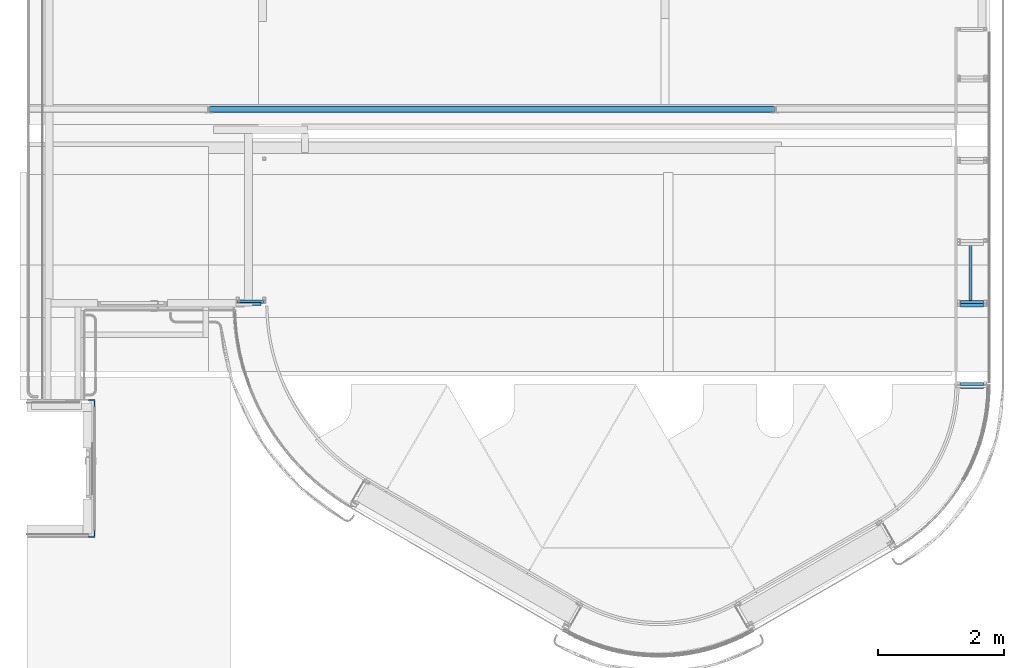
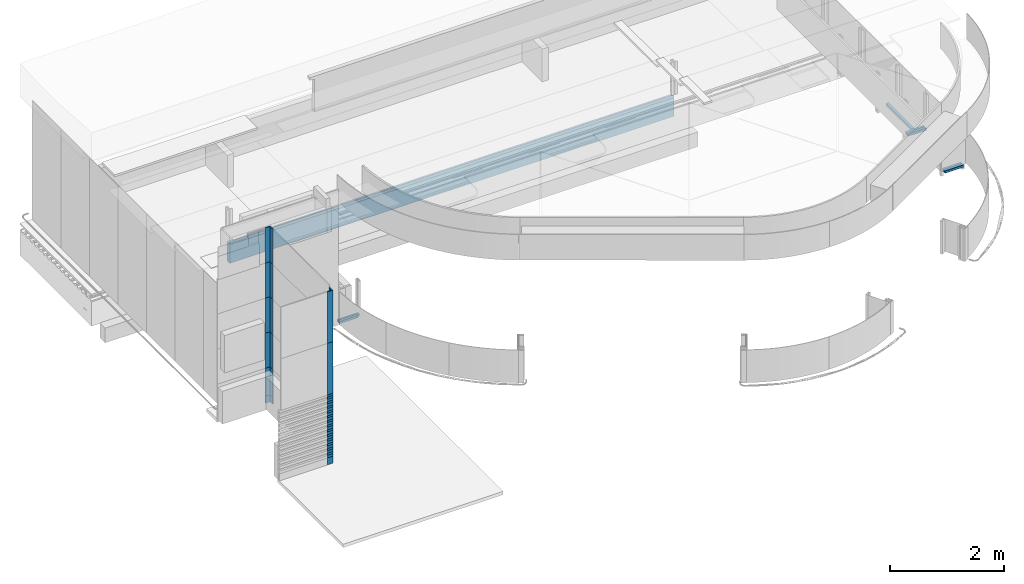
# One storey, part 7 of 18: 36 members, 9 beams, 2 elements without a shape of their own.
"""IFC2X3 building model written with IfcOpenShell, lengths in millimetres."""

from ifc_helpers import new_model, entity, si_unit, converted_unit, derived_unit, direction, frame, frame_2d, origin, origin_with_axes, origin_2d_with_axis, place, context, subcontext, project, spatial, polyline, circle_curve, parameter, trimmed, segment, composite_curve, rectangle, outline, extrude, boolean, source, transform, mapped, material, material_list, type_object, element, aggregate, save


model = new_model("IFC2X3")

# Units and contexts
model_context = context("Model", 3, precision=0.01, world=frame((0.0, 4.29681676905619e-09, 0.0)), true_north=direction((4.01073788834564e-13, 1.0)))
plan_context = context("Plan", 3, precision=0.01, world=frame((0.0, 4.29681676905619e-09, 0.0)), true_north=direction((4.01073788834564e-13, 1.0)))
body_context = subcontext(model_context, "Body", "Model", "MODEL_VIEW")
ifc_project = project(units=[converted_unit("PLANEANGLEUNIT", "DEGREE", entity("IfcPositiveLengthMeasure", 0.0174532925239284), si_unit("PLANEANGLEUNIT", "RADIAN"), dimensions=[0, 0, 0, 0, 0, 0, 0]), si_unit("AREAUNIT", "SQUARE_METRE"), si_unit("LENGTHUNIT", "METRE", prefix="MILLI"), si_unit("MASSUNIT", "GRAM", prefix="KILO"), si_unit("POWERUNIT", "WATT"), si_unit("PRESSUREUNIT", "PASCAL"), si_unit("FORCEUNIT", "NEWTON", prefix="KILO"), si_unit("ELECTRICVOLTAGEUNIT", "VOLT"), si_unit("ELECTRICCURRENTUNIT", "AMPERE"), si_unit("THERMODYNAMICTEMPERATUREUNIT", "DEGREE_CELSIUS"), si_unit("TIMEUNIT", "SECOND"), si_unit("VOLUMEUNIT", "CUBIC_METRE"), derived_unit("LINEARVELOCITYUNIT", [(si_unit("LENGTHUNIT", "METRE"), 1), (si_unit("TIMEUNIT", "SECOND"), -1)]), derived_unit("VOLUMETRICFLOWRATEUNIT", [(si_unit("VOLUMEUNIT", "CUBIC_METRE"), 1), (si_unit("TIMEUNIT", "SECOND"), -1)]), derived_unit("THERMALTRANSMITTANCEUNIT", [(si_unit("POWERUNIT", "WATT"), 1), (si_unit("THERMODYNAMICTEMPERATUREUNIT", "KELVIN"), -1), (si_unit("AREAUNIT", "SQUARE_METRE"), -1)]), derived_unit("SOUNDPRESSUREUNIT", [(si_unit("PRESSUREUNIT", "PASCAL"), 1)])], contexts=[model_context, plan_context])

# Site, building, storey
site_placement = place(None, origin_with_axes())
site = spatial("IfcSite", under=ifc_project, at=site_placement, Name="ENGM", CompositionType="ELEMENT")
building_placement = place(site_placement, origin_with_axes())
building = spatial("IfcBuilding", under=site, at=building_placement, Name="TH", CompositionType="ELEMENT")
storey_placement = place(building_placement, frame((0.0, 0.0, 210200.0), z_axis=(0.0, 0.0, 1.0), x_axis=(1.0, 0.0, 0.0)))
storey = spatial("IfcBuildingStorey", under=building, at=storey_placement, Name="Nivå F - 0,7 m", CompositionType="ELEMENT", Elevation=210200.0)

# Beam
ifc_material_1 = material(Name="<Unnamed>")
ifc_material_2 = material(Name="_NSW Stål")
ifc_material_list = material_list([ifc_material_1, ifc_material_2])
beam_type_1 = type_object("IfcBeamType", Name="B223 - Bjelke - eks. pir fasade:B223 - 400x100x8", PredefinedType="BEAM", material=ifc_material_list)
shared_shape_1 = source(origin(), body_context, "Body", "SweptSolid", [
    extrude(outline(composite_curve([segment(polyline([(-58.0, -192.0), (24.0, -192.0)]), True, "CONTINUOUS"), segment(trimmed(circle_curve(frame_2d((24.0, -182.0), x_axis=(1.0, 0.0)), 10.0), [parameter(270.0)], [parameter(0.0)], True, "PARAMETER"), True, "CONTINUOUS"), segment(polyline([(34.0, -182.0), (34.0, 182.0)]), True, "CONTINUOUS"), segment(trimmed(circle_curve(frame_2d((24.0, 182.0), x_axis=(1.0, 0.0)), 10.0), [parameter(2.03555499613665e-13)], [parameter(90.0000000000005)], True, "PARAMETER"), True, "CONTINUOUS"), segment(polyline([(24.0, 192.0), (-58.0, 192.0)]), True, "CONTINUOUS"), segment(polyline([(-58.0, 192.0), (-58.0, -192.0)]), True, "CONTINUOUS")], self_intersect=False)), frame((-4490.0, 8.0, 0.0), z_axis=(1.0, 0.0, 0.0), x_axis=(0.0, 1.0, 0.0)), (0.0, 0.0, 1.0), 8.00000000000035),
    extrude(outline(composite_curve([segment(polyline([(-58.0, -192.0), (24.0, -192.0)]), True, "CONTINUOUS"), segment(trimmed(circle_curve(frame_2d((24.0, -182.0), x_axis=(-1.0, 0.0)), 9.99999999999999), [parameter(90.0000000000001)], [parameter(180.0)], True, "PARAMETER"), True, "CONTINUOUS"), segment(polyline([(34.0, -182.0), (34.0, 182.0)]), True, "CONTINUOUS"), segment(trimmed(circle_curve(frame_2d((24.0, 182.0), x_axis=(-1.0, 0.0)), 9.99999999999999), [parameter(180.0)], [parameter(270.0)], True, "PARAMETER"), True, "CONTINUOUS"), segment(polyline([(24.0, 192.0), (-58.0, 192.0)]), True, "CONTINUOUS"), segment(polyline([(-58.0, 192.0), (-58.0, -192.0)]), True, "CONTINUOUS")], self_intersect=False)), frame((4482.0, 8.0, 0.0), z_axis=(1.0, 0.0, 0.0), x_axis=(0.0, 1.0, 0.0)), (0.0, 0.0, 1.0), 7.9999999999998),
    extrude(outline(composite_curve([segment(polyline([(-200.0, -45.2), (200.0, -45.2)]), True, "CONTINUOUS"), segment(polyline([(200.0, -45.2), (200.0, 54.8)]), True, "CONTINUOUS"), segment(polyline([(200.0, 54.8), (192.0, 54.8)]), True, "CONTINUOUS"), segment(polyline([(192.0, 54.8), (192.0, -27.2000000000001)]), True, "CONTINUOUS"), segment(trimmed(circle_curve(frame_2d((182.0, -27.2), x_axis=(0.0, 1.0)), 10.0), [parameter(180.0)], [parameter(270.0)], True, "PARAMETER"), False, "CONTINUOUS"), segment(polyline([(182.0, -37.2), (-182.0, -37.2)]), True, "CONTINUOUS"), segment(trimmed(circle_curve(frame_2d((-182.0, -27.2), x_axis=(0.0, 1.0)), 10.0), [parameter(90.0)], [parameter(180.0)], True, "PARAMETER"), False, "CONTINUOUS"), segment(polyline([(-192.0, -27.2), (-192.0, 54.8)]), True, "CONTINUOUS"), segment(polyline([(-192.0, 54.8), (-200.0, 54.8)]), True, "CONTINUOUS"), segment(polyline([(-200.0, 54.8), (-200.0, -45.2)]), True, "CONTINUOUS")], self_intersect=False)), frame((-4490.0, 4.79999999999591, 0.0), z_axis=(1.0, 0.0, 0.0), x_axis=(0.0, 0.0, 1.0)), (0.0, 0.0, 1.0), 8979.9999999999),
])
beam_1_placement = place(storey_placement, frame((902499.999999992, 485076.76249997, -260.0), z_axis=(0.0, 0.0, 1.0), x_axis=(-1.0, 0.0, 0.0)))
element("IfcBeam", 1, at=beam_1_placement, inside=storey, type_object=beam_type_1, material=ifc_material_list, Name="B223 - Bjelke - eks. pir fasade:B223 - 400x100x8", ObjectType="B223 - Bjelke - eks. pir fasade:B223 - 400x100x8", context=body_context, shape_type="MappedRepresentation", body=[
    mapped(shared_shape_1, transform((0.0, 0.0, 0.0), scale=1.0)),
])

# Curtain wall, members
curtain_wall_type = type_object("IfcCurtainWallType", PredefinedType="NOTDEFINED")
curtain_wall_1_placement = place(storey_placement, frame((0.0, 0.0, -210200.0), z_axis=(0.0, 0.0, 1.0), x_axis=(1.0, 0.0, 0.0)))
curtain_wall_1 = element("IfcCurtainWall", 2, at=curtain_wall_1_placement, inside=storey, type_object=curtain_wall_type)
ifc_material_3 = material(Name="Metal - Steel")
member_type_1 = type_object("IfcMemberType", Name="L Corner Mullion:A233 - Sprosse - 20 x 100 mm", PredefinedType="MULLION", material=ifc_material_3)
shared_shape_2 = source(origin(), body_context, "Body", "SweptSolid", [
    extrude(outline(polyline([(-43.3333333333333, -66.6666666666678), (-23.3333333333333, -66.6666666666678), (-23.3333333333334, 23.3333333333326), (66.666666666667, 23.3333333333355), (66.6666666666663, 43.3333333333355), (-43.3333333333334, 43.3333333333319), (-43.3333333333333, -66.6666666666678)])), frame((6.66666666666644, -6.66666666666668, -1105.0), z_axis=(0.0, 0.0, 1.0), x_axis=(-1.0, 0.0, 0.0)), (0.0, 0.0, 1.0), 1104.99999999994),
])
member_1_placement = place(curtain_wall_1_placement, frame((896145.000000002, 478322.727283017, 212800.0), z_axis=(0.0, 0.0, 1.0), x_axis=(1.0, 0.0, 0.0)))
member_1 = element("IfcMember", 3, at=member_1_placement, type_object=member_type_1, material=ifc_material_3, Name="L Corner Mullion:A233 - Sprosse - 20 x 100 mm", ObjectType="L Corner Mullion:A233 - Sprosse - 20 x 100 mm", context=body_context, shape_type="MappedRepresentation", body=[
    mapped(shared_shape_2, transform((0.0, 0.0, 0.0), scale=1.0)),
])
member_type_2 = type_object("IfcMemberType", Name="L Corner Mullion:A233 - Sprosse - 20 x 100 mm", PredefinedType="MULLION", material=ifc_material_3)
shared_shape_3 = source(origin(), body_context, "Body", "SweptSolid", [
    extrude(outline(polyline([(-43.3333333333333, -66.6666666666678), (-23.3333333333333, -66.6666666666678), (-23.3333333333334, 23.3333333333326), (66.666666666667, 23.3333333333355), (66.6666666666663, 43.3333333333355), (-43.3333333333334, 43.3333333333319), (-43.3333333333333, -66.6666666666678)])), frame((6.66666666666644, -6.66666666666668, -45.0), z_axis=(0.0, 0.0, 1.0), x_axis=(-1.0, 0.0, 0.0)), (0.0, 0.0, 1.0), 45.0000000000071),
])
member_2_placement = place(curtain_wall_1_placement, frame((896145.000000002, 478322.727283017, 211695.0), z_axis=(0.0, 0.0, 1.0), x_axis=(1.0, 0.0, 0.0)))
member_2 = element("IfcMember", 4, at=member_2_placement, type_object=member_type_2, material=ifc_material_3, Name="L Corner Mullion:A233 - Sprosse - 20 x 100 mm", ObjectType="L Corner Mullion:A233 - Sprosse - 20 x 100 mm", context=body_context, shape_type="MappedRepresentation", body=[
    mapped(shared_shape_3, transform((0.0, 0.0, 0.0), scale=1.0)),
])
member_3_placement = place(curtain_wall_1_placement, frame((896145.000000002, 478322.727283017, 210450.0), z_axis=(0.0, 0.0, 1.0), x_axis=(1.0, 0.0, 0.0)))
member_3 = element("IfcMember", 5, at=member_3_placement, type_object=member_type_2, material=ifc_material_3, Name="L Corner Mullion:A233 - Sprosse - 20 x 100 mm", ObjectType="L Corner Mullion:A233 - Sprosse - 20 x 100 mm", context=body_context, shape_type="MappedRepresentation", body=[
    mapped(shared_shape_3, transform((0.0, 0.0, 0.0), scale=1.0)),
])
member_4_placement = place(curtain_wall_1_placement, frame((896145.000000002, 478322.727283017, 210550.0), z_axis=(0.0, 0.0, 1.0), x_axis=(1.0, 0.0, 0.0)))
member_4 = element("IfcMember", 6, at=member_4_placement, type_object=member_type_2, material=ifc_material_3, Name="L Corner Mullion:A233 - Sprosse - 20 x 100 mm", ObjectType="L Corner Mullion:A233 - Sprosse - 20 x 100 mm", context=body_context, shape_type="MappedRepresentation", body=[
    mapped(shared_shape_3, transform((0.0, 0.0, 0.0), scale=1.0)),
])
member_5_placement = place(curtain_wall_1_placement, frame((896145.000000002, 478322.727283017, 210650.0), z_axis=(0.0, 0.0, 1.0), x_axis=(1.0, 0.0, 0.0)))
member_5 = element("IfcMember", 7, at=member_5_placement, type_object=member_type_2, material=ifc_material_3, Name="L Corner Mullion:A233 - Sprosse - 20 x 100 mm", ObjectType="L Corner Mullion:A233 - Sprosse - 20 x 100 mm", context=body_context, shape_type="MappedRepresentation", body=[
    mapped(shared_shape_3, transform((0.0, 0.0, 0.0), scale=1.0)),
])
member_6_placement = place(curtain_wall_1_placement, frame((896145.000000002, 478322.727283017, 210850.0), z_axis=(0.0, 0.0, 1.0), x_axis=(1.0, 0.0, 0.0)))
member_6 = element("IfcMember", 8, at=member_6_placement, type_object=member_type_2, material=ifc_material_3, Name="L Corner Mullion:A233 - Sprosse - 20 x 100 mm", ObjectType="L Corner Mullion:A233 - Sprosse - 20 x 100 mm", context=body_context, shape_type="MappedRepresentation", body=[
    mapped(shared_shape_3, transform((0.0, 0.0, 0.0), scale=1.0)),
])
member_7_placement = place(curtain_wall_1_placement, frame((896145.000000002, 478322.727283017, 210950.0), z_axis=(0.0, 0.0, 1.0), x_axis=(1.0, 0.0, 0.0)))
member_7 = element("IfcMember", 9, at=member_7_placement, type_object=member_type_2, material=ifc_material_3, Name="L Corner Mullion:A233 - Sprosse - 20 x 100 mm", ObjectType="L Corner Mullion:A233 - Sprosse - 20 x 100 mm", context=body_context, shape_type="MappedRepresentation", body=[
    mapped(shared_shape_3, transform((0.0, 0.0, 0.0), scale=1.0)),
])
member_8_placement = place(curtain_wall_1_placement, frame((896145.000000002, 478322.727283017, 210750.0), z_axis=(0.0, 0.0, 1.0), x_axis=(1.0, 0.0, 0.0)))
member_8 = element("IfcMember", 10, at=member_8_placement, type_object=member_type_2, material=ifc_material_3, Name="L Corner Mullion:A233 - Sprosse - 20 x 100 mm", ObjectType="L Corner Mullion:A233 - Sprosse - 20 x 100 mm", context=body_context, shape_type="MappedRepresentation", body=[
    mapped(shared_shape_3, transform((0.0, 0.0, 0.0), scale=1.0)),
])
member_9_placement = place(curtain_wall_1_placement, frame((896145.000000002, 478322.727283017, 211050.0), z_axis=(0.0, 0.0, 1.0), x_axis=(1.0, 0.0, 0.0)))
member_9 = element("IfcMember", 11, at=member_9_placement, type_object=member_type_2, material=ifc_material_3, Name="L Corner Mullion:A233 - Sprosse - 20 x 100 mm", ObjectType="L Corner Mullion:A233 - Sprosse - 20 x 100 mm", context=body_context, shape_type="MappedRepresentation", body=[
    mapped(shared_shape_3, transform((0.0, 0.0, 0.0), scale=1.0)),
])
member_10_placement = place(curtain_wall_1_placement, frame((896145.000000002, 478322.727283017, 211150.0), z_axis=(0.0, 0.0, 1.0), x_axis=(1.0, 0.0, 0.0)))
member_10 = element("IfcMember", 12, at=member_10_placement, type_object=member_type_2, material=ifc_material_3, Name="L Corner Mullion:A233 - Sprosse - 20 x 100 mm", ObjectType="L Corner Mullion:A233 - Sprosse - 20 x 100 mm", context=body_context, shape_type="MappedRepresentation", body=[
    mapped(shared_shape_3, transform((0.0, 0.0, 0.0), scale=1.0)),
])
member_11_placement = place(curtain_wall_1_placement, frame((896145.000000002, 478322.727283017, 211250.0), z_axis=(0.0, 0.0, 1.0), x_axis=(1.0, 0.0, 0.0)))
member_11 = element("IfcMember", 13, at=member_11_placement, type_object=member_type_2, material=ifc_material_3, Name="L Corner Mullion:A233 - Sprosse - 20 x 100 mm", ObjectType="L Corner Mullion:A233 - Sprosse - 20 x 100 mm", context=body_context, shape_type="MappedRepresentation", body=[
    mapped(shared_shape_3, transform((0.0, 0.0, 0.0), scale=1.0)),
])
member_12_placement = place(curtain_wall_1_placement, frame((896145.000000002, 478322.727283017, 211350.0), z_axis=(0.0, 0.0, 1.0), x_axis=(1.0, 0.0, 0.0)))
member_12 = element("IfcMember", 14, at=member_12_placement, type_object=member_type_2, material=ifc_material_3, Name="L Corner Mullion:A233 - Sprosse - 20 x 100 mm", ObjectType="L Corner Mullion:A233 - Sprosse - 20 x 100 mm", context=body_context, shape_type="MappedRepresentation", body=[
    mapped(shared_shape_3, transform((0.0, 0.0, 0.0), scale=1.0)),
])
member_13_placement = place(curtain_wall_1_placement, frame((896145.000000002, 478322.727283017, 211450.0), z_axis=(0.0, 0.0, 1.0), x_axis=(1.0, 0.0, 0.0)))
member_13 = element("IfcMember", 15, at=member_13_placement, type_object=member_type_2, material=ifc_material_3, Name="L Corner Mullion:A233 - Sprosse - 20 x 100 mm", ObjectType="L Corner Mullion:A233 - Sprosse - 20 x 100 mm", context=body_context, shape_type="MappedRepresentation", body=[
    mapped(shared_shape_3, transform((0.0, 0.0, 0.0), scale=1.0)),
])
member_14_placement = place(curtain_wall_1_placement, frame((896145.000000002, 478322.727283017, 211550.0), z_axis=(0.0, 0.0, 1.0), x_axis=(1.0, 0.0, 0.0)))
member_14 = element("IfcMember", 16, at=member_14_placement, type_object=member_type_2, material=ifc_material_3, Name="L Corner Mullion:A233 - Sprosse - 20 x 100 mm", ObjectType="L Corner Mullion:A233 - Sprosse - 20 x 100 mm", context=body_context, shape_type="MappedRepresentation", body=[
    mapped(shared_shape_3, transform((0.0, 0.0, 0.0), scale=1.0)),
])
member_15_placement = place(curtain_wall_1_placement, frame((896145.000000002, 478322.727283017, 211650.0), z_axis=(0.0, 0.0, 1.0), x_axis=(1.0, 0.0, 0.0)))
member_15 = element("IfcMember", 17, at=member_15_placement, type_object=member_type_2, material=ifc_material_3, Name="L Corner Mullion:A233 - Sprosse - 20 x 100 mm", ObjectType="L Corner Mullion:A233 - Sprosse - 20 x 100 mm", context=body_context, shape_type="MappedRepresentation", body=[
    mapped(shared_shape_3, transform((0.0, 0.0, 0.0), scale=1.0)),
])
member_type_3 = type_object("IfcMemberType", Name="L Corner Mullion:A233 - Sprosse - 20 x 100 mm", PredefinedType="MULLION", material=ifc_material_3)
shared_shape_4 = source(origin(), body_context, "Body", "SweptSolid", [
    extrude(outline(polyline([(-43.3333333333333, -66.6666666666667), (-23.3333333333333, -66.6666666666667), (-23.3333333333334, 23.3333333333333), (66.6666666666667, 23.3333333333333), (66.6666666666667, 43.3333333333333), (-43.3333333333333, 43.3333333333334), (-43.3333333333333, -66.6666666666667)])), frame((6.66666666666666, -6.66666666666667, -150.0), z_axis=(0.0, 0.0, 1.0), x_axis=(-1.0, 0.0, 0.0)), (0.0, 0.0, 1.0), 150.000000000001),
])
member_16_placement = place(curtain_wall_1_placement, frame((896145.000000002, 478322.727283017, 210350.0), z_axis=(0.0, 0.0, 1.0), x_axis=(1.0, 0.0, 0.0)))
member_16 = element("IfcMember", 18, at=member_16_placement, type_object=member_type_3, material=ifc_material_3, Name="L Corner Mullion:A233 - Sprosse - 20 x 100 mm", ObjectType="L Corner Mullion:A233 - Sprosse - 20 x 100 mm", context=body_context, shape_type="MappedRepresentation", body=[
    mapped(shared_shape_4, transform((0.0, 0.0, 0.0), scale=1.0)),
])
member_type_4 = type_object("IfcMemberType", Name="L Corner Mullion:A233 - Sprosse - 20 x 100 mm", PredefinedType="MULLION", material=ifc_material_3)
shared_shape_5 = source(origin(), body_context, "Body", "SweptSolid", [
    extrude(outline(polyline([(-43.3333333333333, -66.6666666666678), (-23.3333333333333, -66.6666666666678), (-23.3333333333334, 23.3333333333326), (66.666666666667, 23.3333333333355), (66.6666666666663, 43.3333333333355), (-43.3333333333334, 43.3333333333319), (-43.3333333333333, -66.6666666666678)])), frame((6.66666666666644, -6.66666666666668, -1100.0), z_axis=(0.0, 0.0, 1.0), x_axis=(-1.0, 0.0, 0.0)), (0.0, 0.0, 1.0), 1099.99999999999),
])
member_17_placement = place(curtain_wall_1_placement, frame((896145.000000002, 478322.727283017, 213900.0), z_axis=(0.0, 0.0, 1.0), x_axis=(1.0, 0.0, 0.0)))
member_17 = element("IfcMember", 19, at=member_17_placement, type_object=member_type_4, material=ifc_material_3, Name="L Corner Mullion:A233 - Sprosse - 20 x 100 mm", ObjectType="L Corner Mullion:A233 - Sprosse - 20 x 100 mm", context=body_context, shape_type="MappedRepresentation", body=[
    mapped(shared_shape_5, transform((0.0, 0.0, 0.0), scale=1.0)),
])
member_type_5 = type_object("IfcMemberType", Name="L Corner Mullion:A233 - Sprosse - 20 x 100 mm", PredefinedType="MULLION", material=ifc_material_3)
shared_shape_6 = source(origin(), body_context, "Body", "SweptSolid", [
    extrude(outline(polyline([(-43.3333333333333, -66.6666666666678), (-23.3333333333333, -66.6666666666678), (-23.3333333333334, 23.3333333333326), (66.666666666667, 23.3333333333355), (66.6666666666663, 43.3333333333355), (-43.3333333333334, 43.3333333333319), (-43.3333333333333, -66.6666666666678)])), frame((6.66666666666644, -6.66666666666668, -55.0), z_axis=(0.0, 0.0, 1.0), x_axis=(-1.0, 0.0, 0.0)), (0.0, 0.0, 1.0), 55.0000000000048),
])
member_18_placement = place(curtain_wall_1_placement, frame((896145.000000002, 478322.727283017, 210405.0), z_axis=(0.0, 0.0, 1.0), x_axis=(1.0, 0.0, 0.0)))
member_18 = element("IfcMember", 20, at=member_18_placement, type_object=member_type_5, material=ifc_material_3, Name="L Corner Mullion:A233 - Sprosse - 20 x 100 mm", ObjectType="L Corner Mullion:A233 - Sprosse - 20 x 100 mm", context=body_context, shape_type="MappedRepresentation", body=[
    mapped(shared_shape_6, transform((0.0, 0.0, 0.0), scale=1.0)),
])
member_19_placement = place(curtain_wall_1_placement, frame((896145.000000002, 478322.727283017, 210605.0), z_axis=(0.0, 0.0, 1.0), x_axis=(1.0, 0.0, 0.0)))
member_19 = element("IfcMember", 21, at=member_19_placement, type_object=member_type_5, material=ifc_material_3, Name="L Corner Mullion:A233 - Sprosse - 20 x 100 mm", ObjectType="L Corner Mullion:A233 - Sprosse - 20 x 100 mm", context=body_context, shape_type="MappedRepresentation", body=[
    mapped(shared_shape_6, transform((0.0, 0.0, 0.0), scale=1.0)),
])
member_20_placement = place(curtain_wall_1_placement, frame((896145.000000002, 478322.727283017, 210705.0), z_axis=(0.0, 0.0, 1.0), x_axis=(1.0, 0.0, 0.0)))
member_20 = element("IfcMember", 22, at=member_20_placement, type_object=member_type_5, material=ifc_material_3, Name="L Corner Mullion:A233 - Sprosse - 20 x 100 mm", ObjectType="L Corner Mullion:A233 - Sprosse - 20 x 100 mm", context=body_context, shape_type="MappedRepresentation", body=[
    mapped(shared_shape_6, transform((0.0, 0.0, 0.0), scale=1.0)),
])
member_21_placement = place(curtain_wall_1_placement, frame((896145.000000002, 478322.727283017, 210505.0), z_axis=(0.0, 0.0, 1.0), x_axis=(1.0, 0.0, 0.0)))
member_21 = element("IfcMember", 23, at=member_21_placement, type_object=member_type_5, material=ifc_material_3, Name="L Corner Mullion:A233 - Sprosse - 20 x 100 mm", ObjectType="L Corner Mullion:A233 - Sprosse - 20 x 100 mm", context=body_context, shape_type="MappedRepresentation", body=[
    mapped(shared_shape_6, transform((0.0, 0.0, 0.0), scale=1.0)),
])
member_22_placement = place(curtain_wall_1_placement, frame((896145.000000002, 478322.727283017, 210805.0), z_axis=(0.0, 0.0, 1.0), x_axis=(1.0, 0.0, 0.0)))
member_22 = element("IfcMember", 24, at=member_22_placement, type_object=member_type_5, material=ifc_material_3, Name="L Corner Mullion:A233 - Sprosse - 20 x 100 mm", ObjectType="L Corner Mullion:A233 - Sprosse - 20 x 100 mm", context=body_context, shape_type="MappedRepresentation", body=[
    mapped(shared_shape_6, transform((0.0, 0.0, 0.0), scale=1.0)),
])
member_23_placement = place(curtain_wall_1_placement, frame((896145.000000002, 478322.727283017, 210905.0), z_axis=(0.0, 0.0, 1.0), x_axis=(1.0, 0.0, 0.0)))
member_23 = element("IfcMember", 25, at=member_23_placement, type_object=member_type_5, material=ifc_material_3, Name="L Corner Mullion:A233 - Sprosse - 20 x 100 mm", ObjectType="L Corner Mullion:A233 - Sprosse - 20 x 100 mm", context=body_context, shape_type="MappedRepresentation", body=[
    mapped(shared_shape_6, transform((0.0, 0.0, 0.0), scale=1.0)),
])
member_24_placement = place(curtain_wall_1_placement, frame((896145.000000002, 478322.727283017, 211005.0), z_axis=(0.0, 0.0, 1.0), x_axis=(1.0, 0.0, 0.0)))
member_24 = element("IfcMember", 26, at=member_24_placement, type_object=member_type_5, material=ifc_material_3, Name="L Corner Mullion:A233 - Sprosse - 20 x 100 mm", ObjectType="L Corner Mullion:A233 - Sprosse - 20 x 100 mm", context=body_context, shape_type="MappedRepresentation", body=[
    mapped(shared_shape_6, transform((0.0, 0.0, 0.0), scale=1.0)),
])
member_25_placement = place(curtain_wall_1_placement, frame((896145.000000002, 478322.727283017, 211105.0), z_axis=(0.0, 0.0, 1.0), x_axis=(1.0, 0.0, 0.0)))
member_25 = element("IfcMember", 27, at=member_25_placement, type_object=member_type_5, material=ifc_material_3, Name="L Corner Mullion:A233 - Sprosse - 20 x 100 mm", ObjectType="L Corner Mullion:A233 - Sprosse - 20 x 100 mm", context=body_context, shape_type="MappedRepresentation", body=[
    mapped(shared_shape_6, transform((0.0, 0.0, 0.0), scale=1.0)),
])
member_26_placement = place(curtain_wall_1_placement, frame((896145.000000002, 478322.727283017, 211205.0), z_axis=(0.0, 0.0, 1.0), x_axis=(1.0, 0.0, 0.0)))
member_26 = element("IfcMember", 28, at=member_26_placement, type_object=member_type_5, material=ifc_material_3, Name="L Corner Mullion:A233 - Sprosse - 20 x 100 mm", ObjectType="L Corner Mullion:A233 - Sprosse - 20 x 100 mm", context=body_context, shape_type="MappedRepresentation", body=[
    mapped(shared_shape_6, transform((0.0, 0.0, 0.0), scale=1.0)),
])
member_27_placement = place(curtain_wall_1_placement, frame((896145.000000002, 478322.727283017, 211305.0), z_axis=(0.0, 0.0, 1.0), x_axis=(1.0, 0.0, 0.0)))
member_27 = element("IfcMember", 29, at=member_27_placement, type_object=member_type_5, material=ifc_material_3, Name="L Corner Mullion:A233 - Sprosse - 20 x 100 mm", ObjectType="L Corner Mullion:A233 - Sprosse - 20 x 100 mm", context=body_context, shape_type="MappedRepresentation", body=[
    mapped(shared_shape_6, transform((0.0, 0.0, 0.0), scale=1.0)),
])
member_28_placement = place(curtain_wall_1_placement, frame((896145.000000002, 478322.727283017, 211405.0), z_axis=(0.0, 0.0, 1.0), x_axis=(1.0, 0.0, 0.0)))
member_28 = element("IfcMember", 30, at=member_28_placement, type_object=member_type_5, material=ifc_material_3, Name="L Corner Mullion:A233 - Sprosse - 20 x 100 mm", ObjectType="L Corner Mullion:A233 - Sprosse - 20 x 100 mm", context=body_context, shape_type="MappedRepresentation", body=[
    mapped(shared_shape_6, transform((0.0, 0.0, 0.0), scale=1.0)),
])
member_29_placement = place(curtain_wall_1_placement, frame((896145.000000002, 478322.727283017, 211505.0), z_axis=(0.0, 0.0, 1.0), x_axis=(1.0, 0.0, 0.0)))
member_29 = element("IfcMember", 31, at=member_29_placement, type_object=member_type_5, material=ifc_material_3, Name="L Corner Mullion:A233 - Sprosse - 20 x 100 mm", ObjectType="L Corner Mullion:A233 - Sprosse - 20 x 100 mm", context=body_context, shape_type="MappedRepresentation", body=[
    mapped(shared_shape_6, transform((0.0, 0.0, 0.0), scale=1.0)),
])
member_30_placement = place(curtain_wall_1_placement, frame((896145.000000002, 478322.727283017, 211605.0), z_axis=(0.0, 0.0, 1.0), x_axis=(1.0, 0.0, 0.0)))
member_30 = element("IfcMember", 32, at=member_30_placement, type_object=member_type_5, material=ifc_material_3, Name="L Corner Mullion:A233 - Sprosse - 20 x 100 mm", ObjectType="L Corner Mullion:A233 - Sprosse - 20 x 100 mm", context=body_context, shape_type="MappedRepresentation", body=[
    mapped(shared_shape_6, transform((0.0, 0.0, 0.0), scale=1.0)),
])
aggregate(curtain_wall_1, [member_1, member_2, member_16, member_17, member_3, member_18, member_4, member_19, member_5, member_20, member_21, member_22, member_6, member_23, member_7, member_8, member_24, member_9, member_25, member_10, member_26, member_11, member_27, member_28, member_29, member_12, member_13, member_14, member_15, member_30])

curtain_wall_2_placement = place(storey_placement, frame((0.0, 0.0, -210200.0), z_axis=(0.0, 0.0, 1.0), x_axis=(1.0, 0.0, 0.0)))
curtain_wall_2 = element("IfcCurtainWall", 33, at=curtain_wall_2_placement, inside=storey, type_object=curtain_wall_type)
member_type_6 = type_object("IfcMemberType", Name="L Corner Mullion:A233 - Sprosse - 20 x 100 mm", PredefinedType="MULLION", material=ifc_material_3)
shared_shape_7 = source(origin(), body_context, "Body", "SweptSolid", [
    extrude(outline(polyline([(23.3333333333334, -66.6666666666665), (43.3333333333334, -66.6666666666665), (43.3333333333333, 43.3333333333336), (-66.6666666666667, 43.3333333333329), (-66.6666666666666, 23.3333333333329), (23.3333333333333, 23.3333333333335), (23.3333333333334, -66.6666666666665)])), frame((6.66666666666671, 6.66666666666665, -750.0)), (0.0, 0.0, 1.0), 750.000000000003),
])
member_31_placement = place(curtain_wall_2_placement, frame((896145.000000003, 480415.000000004, 213200.0), z_axis=(0.0, 0.0, -1.0), x_axis=(0.0, 1.0, 0.0)))
member_31 = element("IfcMember", 34, at=member_31_placement, type_object=member_type_6, material=ifc_material_3, Name="L Corner Mullion:A233 - Sprosse - 20 x 100 mm", ObjectType="L Corner Mullion:A233 - Sprosse - 20 x 100 mm", context=body_context, shape_type="MappedRepresentation", body=[
    mapped(shared_shape_7, transform((0.0, 0.0, 0.0), scale=1.0)),
])
member_32_placement = place(curtain_wall_2_placement, frame((896145.000000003, 480415.000000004, 212450.0), z_axis=(0.0, 0.0, -1.0), x_axis=(0.0, 1.0, 0.0)))
member_32 = element("IfcMember", 35, at=member_32_placement, type_object=member_type_6, material=ifc_material_3, Name="L Corner Mullion:A233 - Sprosse - 20 x 100 mm", ObjectType="L Corner Mullion:A233 - Sprosse - 20 x 100 mm", context=body_context, shape_type="MappedRepresentation", body=[
    mapped(shared_shape_7, transform((0.0, 0.0, 0.0), scale=1.0)),
])
member_33_placement = place(curtain_wall_2_placement, frame((896145.000000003, 480415.000000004, 211700.0), z_axis=(0.0, 0.0, -1.0), x_axis=(0.0, 1.0, 0.0)))
member_33 = element("IfcMember", 36, at=member_33_placement, type_object=member_type_6, material=ifc_material_3, Name="L Corner Mullion:A233 - Sprosse - 20 x 100 mm", ObjectType="L Corner Mullion:A233 - Sprosse - 20 x 100 mm", context=body_context, shape_type="MappedRepresentation", body=[
    mapped(shared_shape_7, transform((0.0, 0.0, 0.0), scale=1.0)),
])
member_34_placement = place(curtain_wall_2_placement, frame((896145.000000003, 480415.000000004, 210950.0), z_axis=(0.0, 0.0, -1.0), x_axis=(0.0, 1.0, 0.0)))
member_34 = element("IfcMember", 37, at=member_34_placement, type_object=member_type_6, material=ifc_material_3, Name="L Corner Mullion:A233 - Sprosse - 20 x 100 mm", ObjectType="L Corner Mullion:A233 - Sprosse - 20 x 100 mm", context=body_context, shape_type="MappedRepresentation", body=[
    mapped(shared_shape_7, transform((0.0, 0.0, 0.0), scale=1.0)),
])
member_type_7 = type_object("IfcMemberType", Name="L Corner Mullion:A233 - Sprosse - 20 x 100 mm", PredefinedType="MULLION", material=ifc_material_3)
shared_shape_8 = source(origin(), body_context, "Body", "SweptSolid", [
    extrude(outline(polyline([(23.3333333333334, -66.6666666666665), (43.3333333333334, -66.6666666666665), (43.3333333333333, 43.3333333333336), (-66.6666666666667, 43.3333333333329), (-66.6666666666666, 23.3333333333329), (23.3333333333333, 23.3333333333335), (23.3333333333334, -66.6666666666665)])), frame((6.66666666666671, 6.66666666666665, -600.0)), (0.0, 0.0, 1.0), 600.000000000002),
])
member_35_placement = place(curtain_wall_2_placement, frame((896145.000000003, 480415.000000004, 210350.0), z_axis=(0.0, 0.0, -1.0), x_axis=(0.0, 1.0, 0.0)))
member_35 = element("IfcMember", 38, at=member_35_placement, type_object=member_type_7, material=ifc_material_3, Name="L Corner Mullion:A233 - Sprosse - 20 x 100 mm", ObjectType="L Corner Mullion:A233 - Sprosse - 20 x 100 mm", context=body_context, shape_type="MappedRepresentation", body=[
    mapped(shared_shape_8, transform((0.0, 0.0, 0.0), scale=1.0)),
])
member_type_8 = type_object("IfcMemberType", Name="L Corner Mullion:A233 - Sprosse - 20 x 100 mm", PredefinedType="MULLION", material=ifc_material_3)
shared_shape_9 = source(origin(), body_context, "Body", "SweptSolid", [
    extrude(outline(polyline([(23.3333333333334, -66.6666666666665), (43.3333333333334, -66.6666666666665), (43.3333333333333, 43.3333333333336), (-66.6666666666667, 43.3333333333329), (-66.6666666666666, 23.3333333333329), (23.3333333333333, 23.3333333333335), (23.3333333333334, -66.6666666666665)])), frame((6.66666666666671, 6.66666666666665, -150.0)), (0.0, 0.0, 1.0), 150.000000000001),
])
member_36_placement = place(curtain_wall_2_placement, frame((896145.000000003, 480415.000000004, 210200.0), z_axis=(0.0, 0.0, -1.0), x_axis=(0.0, 1.0, 0.0)))
member_36 = element("IfcMember", 39, at=member_36_placement, type_object=member_type_8, material=ifc_material_3, Name="L Corner Mullion:A233 - Sprosse - 20 x 100 mm", ObjectType="L Corner Mullion:A233 - Sprosse - 20 x 100 mm", context=body_context, shape_type="MappedRepresentation", body=[
    mapped(shared_shape_9, transform((0.0, 0.0, 0.0), scale=1.0)),
])
aggregate(curtain_wall_2, [member_31, member_32, member_33, member_34, member_35, member_36])

# Beams
beam_type_2 = type_object("IfcBeamType", Name="B223 - Bjelke - L:B223 -100x50x8", PredefinedType="BEAM")
beam_2_placement = place(storey_placement, frame((898009.999999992, 485076.987499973, -4.0), z_axis=(0.0, 0.0, 1.0), x_axis=(1.0, 0.0, 0.0)))
element("IfcBeam", 40, at=beam_2_placement, inside=storey, type_object=beam_type_2, material=ifc_material_2, Name="B223 - Bjelke - L:B223 -100x50x8", ObjectType="B223 - Bjelke - L:B223 -100x50x8", context=body_context, shape_type="SweptSolid", body=[
    extrude(outline(polyline([(-30.6666666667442, -36.0), (19.3333333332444, -36.0), (19.3333333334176, 64.0), (11.3333333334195, 64.0), (11.3333333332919, -28.0), (-30.6666666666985, -28.0), (-30.6666666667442, -36.0)])), frame((0.0, -14.0, -30.6666666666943), z_axis=(1.0, 0.0, 0.0), x_axis=(0.0, 0.0, -1.0)), (0.0, 0.0, 1.0), 8979.99999999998),
])
beam_type_3 = type_object("IfcBeamType", Name="B223 - Bjelke - HUP2:B223 - HUP 50x50x5mm 2", PredefinedType="BEAM")
beam_3_placement = place(storey_placement, frame((910105.000000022, 482013.436894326, -1.0), z_axis=(0.0, 0.0, 1.0), x_axis=(0.0, 1.0, 0.0)))
element("IfcBeam", 41, at=beam_3_placement, inside=storey, type_object=beam_type_3, material=ifc_material_2, Name="B223 - Bjelke - HUP2:B223 - HUP 50x50x5mm 2", ObjectType="B223 - Bjelke - HUP2:B223 - HUP 50x50x5mm 2", context=body_context, shape_type="SweptSolid", body=[
    boolean("DIFFERENCE", extrude(rectangle(XDim=49.9999999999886, YDim=50.0000000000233, at=origin_2d_with_axis()), frame((0.0, 0.0, -25.0), z_axis=(1.0, 0.0, 0.0), x_axis=(0.0, 0.0, -1.0)), (0.0, 0.0, 1.0), 934.982972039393), extrude(rectangle(XDim=39.9999999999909, YDim=39.9999999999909, at=frame_2d((-6.93027857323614e-11, 0.0), x_axis=(0.0, 1.0))), frame((934.982972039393, 0.0, -25.0), z_axis=(-1.0, 0.0, 0.0), x_axis=(0.0, 1.0, 0.0)), (0.0, 0.0, 1.0), 934.982972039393)),
])
beam_4_placement = place(storey_placement, frame((910315.000000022, 480664.436894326, -1.0), z_axis=(0.0, 0.0, 1.0), x_axis=(-1.0, 0.0, 0.0)))
element("IfcBeam", 42, at=beam_4_placement, inside=storey, type_object=beam_type_3, material=ifc_material_2, Name="B223 - Bjelke - HUP2:B223 - HUP 50x50x5mm 2", ObjectType="B223 - Bjelke - HUP2:B223 - HUP 50x50x5mm 2", context=body_context, shape_type="SweptSolid", body=[
    boolean("DIFFERENCE", extrude(rectangle(XDim=49.9999999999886, YDim=49.999999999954, at=frame_2d((0.0, 3.46513928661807e-11), x_axis=(1.0, 0.0))), frame((0.0, 0.0, -25.0), z_axis=(1.0, 0.0, 0.0), x_axis=(0.0, 0.0, -1.0)), (0.0, 0.0, 1.0), 369.999999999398), extrude(rectangle(XDim=39.9999999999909, YDim=39.9999999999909, at=frame_2d((0.0, 0.0), x_axis=(0.0, 1.0))), frame((370.0, 0.0, -25.0), z_axis=(-1.0, 0.0, 0.0), x_axis=(0.0, 1.0, 0.0)), (0.0, 0.0, 1.0), 369.999999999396)),
])
beam_5_placement = place(storey_placement, frame((910315.000000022, 480714.436894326, -1.0), z_axis=(0.0, 0.0, 1.0), x_axis=(-1.0, 0.0, 0.0)))
element("IfcBeam", 43, at=beam_5_placement, inside=storey, type_object=beam_type_3, material=ifc_material_2, Name="B223 - Bjelke - HUP2:B223 - HUP 50x50x5mm 2", ObjectType="B223 - Bjelke - HUP2:B223 - HUP 50x50x5mm 2", context=body_context, shape_type="SweptSolid", body=[
    boolean("DIFFERENCE", extrude(rectangle(XDim=50.0000000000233, YDim=50.0000000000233, at=origin_2d_with_axis()), frame((0.0, 0.0, -25.0), z_axis=(1.0, 0.0, 0.0), x_axis=(0.0, 0.0, -1.0)), (0.0, 0.0, 1.0), 369.999999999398), extrude(rectangle(XDim=39.9999999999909, YDim=39.9999999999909, at=frame_2d((0.0, 0.0), x_axis=(0.0, 1.0))), frame((0.0, 0.0, -25.0), z_axis=(1.0, 0.0, 0.0), x_axis=(0.0, -1.0, 0.0)), (0.0, 0.0, 1.0), 369.999999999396)),
])
beam_6_placement = place(storey_placement, frame((910315.000000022, 481963.436894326, -1.0), z_axis=(0.0, 0.0, 1.0), x_axis=(-1.0, 0.0, 0.0)))
element("IfcBeam", 44, at=beam_6_placement, inside=storey, type_object=beam_type_3, material=ifc_material_2, Name="B223 - Bjelke - HUP2:B223 - HUP 50x50x5mm 2", ObjectType="B223 - Bjelke - HUP2:B223 - HUP 50x50x5mm 2", context=body_context, shape_type="SweptSolid", body=[
    boolean("DIFFERENCE", extrude(rectangle(XDim=49.9999999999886, YDim=49.999999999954, at=frame_2d((0.0, 3.46513928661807e-11), x_axis=(1.0, 0.0))), frame((0.0, 0.0, -25.0), z_axis=(1.0, 0.0, 0.0), x_axis=(0.0, 0.0, -1.0)), (0.0, 0.0, 1.0), 369.999999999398), extrude(rectangle(XDim=39.9999999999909, YDim=39.9999999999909, at=frame_2d((0.0, 0.0), x_axis=(0.0, 1.0))), frame((370.0, 0.0, -25.0), z_axis=(-1.0, 0.0, 0.0), x_axis=(0.0, 1.0, 0.0)), (0.0, 0.0, 1.0), 369.999999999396)),
])
beam_7_placement = place(storey_placement, frame((910315.000000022, 482013.436894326, -1.0), z_axis=(0.0, 0.0, 1.0), x_axis=(-1.0, 0.0, 0.0)))
element("IfcBeam", 45, at=beam_7_placement, inside=storey, type_object=beam_type_3, material=ifc_material_2, Name="B223 - Bjelke - HUP2:B223 - HUP 50x50x5mm 2", ObjectType="B223 - Bjelke - HUP2:B223 - HUP 50x50x5mm 2", context=body_context, shape_type="SweptSolid", body=[
    boolean("DIFFERENCE", extrude(rectangle(XDim=50.0000000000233, YDim=50.0000000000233, at=origin_2d_with_axis()), frame((0.0, 0.0, -25.0), z_axis=(1.0, 0.0, 0.0), x_axis=(0.0, 0.0, -1.0)), (0.0, 0.0, 1.0), 369.999999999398), extrude(rectangle(XDim=39.9999999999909, YDim=39.9999999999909, at=frame_2d((0.0, 0.0), x_axis=(0.0, 1.0))), frame((0.0, 0.0, -25.0), z_axis=(1.0, 0.0, 0.0), x_axis=(0.0, -1.0, 0.0)), (0.0, 0.0, 1.0), 369.999999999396)),
])
beam_8_placement = place(storey_placement, frame((898880.133962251, 482019.616538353, -1.0), z_axis=(0.0, 0.0, 1.0), x_axis=(-1.0, 0.0, 0.0)))
element("IfcBeam", 46, at=beam_8_placement, inside=storey, type_object=beam_type_3, material=ifc_material_2, Name="B223 - Bjelke - HUP2:B223 - HUP 50x50x5mm 2", ObjectType="B223 - Bjelke - HUP2:B223 - HUP 50x50x5mm 2", context=body_context, shape_type="SweptSolid", body=[
    boolean("DIFFERENCE", extrude(rectangle(XDim=49.9999999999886, YDim=50.0000000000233, at=origin_2d_with_axis()), frame((0.0, 0.0, -25.0), z_axis=(1.0, 0.0, 0.0), x_axis=(0.0, 0.0, -1.0)), (0.0, 0.0, 1.0), 419.999999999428), extrude(rectangle(XDim=39.9999999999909, YDim=39.9999999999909, at=frame_2d((0.0, 0.0), x_axis=(0.0, 1.0))), frame((420.0, 0.0, -25.0), z_axis=(-1.0, 0.0, 0.0), x_axis=(0.0, 1.0, 0.0)), (0.0, 0.0, 1.0), 419.999999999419)),
])
beam_9_placement = place(storey_placement, frame((898829.999999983, 481984.951352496, -1.0), z_axis=(0.0, 0.0, 1.0), x_axis=(-1.0, 0.0, 0.0)))
element("IfcBeam", 47, at=beam_9_placement, inside=storey, type_object=beam_type_3, material=ifc_material_2, Name="B223 - Bjelke - HUP2:B223 - HUP 50x50x5mm 2", ObjectType="B223 - Bjelke - HUP2:B223 - HUP 50x50x5mm 2", context=body_context, shape_type="SweptSolid", body=[
    boolean("DIFFERENCE", extrude(rectangle(XDim=50.0000000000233, YDim=50.0000000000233, at=origin_2d_with_axis()), frame((0.0, 0.0, -25.0), z_axis=(1.0, 0.0, 0.0), x_axis=(0.0, 0.0, -1.0)), (0.0, 0.0, 1.0), 369.999999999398), extrude(rectangle(XDim=39.9999999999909, YDim=39.9999999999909, at=frame_2d((0.0, 0.0), x_axis=(0.0, 1.0))), frame((0.0, 0.0, -25.0), z_axis=(1.0, 0.0, 0.0), x_axis=(0.0, -1.0, 0.0)), (0.0, 0.0, 1.0), 369.999999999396)),
])

save(model, "model.ifc")
